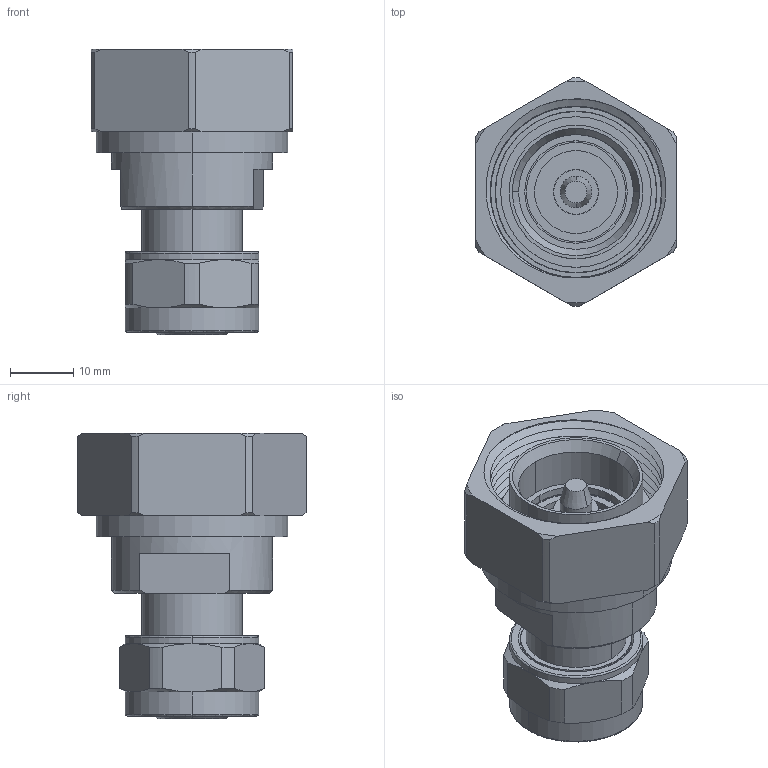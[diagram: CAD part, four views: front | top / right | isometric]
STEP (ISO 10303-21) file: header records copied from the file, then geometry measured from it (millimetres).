
FILE_DESCRIPTION (( 'STEP AP203' ), '1' );
FILE_NAME ('2227000Q001-010step.STEP', '2015-11-20T21:32:15', ( 'klewis' ), ( '' ), 'SwSTEP 2.0', 'SolidWorks 2014', '' );
FILE_SCHEMA (( 'CONFIG_CONTROL_DESIGN' ));
Length unit declared in the file: inch
Products named in the file (1): 2227000Q001-010step
Bounding box: 31.75 x 36.02 x 45.09 mm (x, y, z)
Volume: 16762 mm3; surface area: 10770.7 mm2
Topology: 1 solids, 1 shells, 199 faces, 474 edges, 307 vertices
Faces by surface type: cylinder 97, plane 49, cone 41, bspline 12
Entity records: 9762 total; most frequent: CARTESIAN_POINT 5211, ORIENTED_EDGE 948, DIRECTION 911, EDGE_CURVE 474, AXIS2_PLACEMENT_3D 382, VERTEX_POINT 307, EDGE_LOOP 229, ADVANCED_FACE 199
